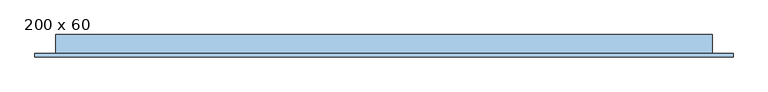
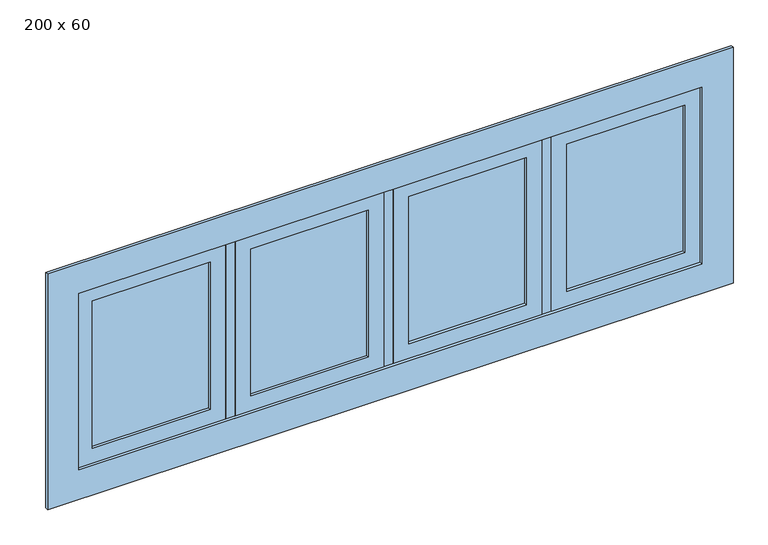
"""IFC4 building model written with IfcOpenShell, lengths in millimetres: window geometry, JANELA COM ESQUADRIA MAXIM-AR - 4 FOLHAS : 200 x 60."""

from ifc_helpers import new_model, si_unit, frame, origin, place, context, project, spatial, polyline, outline, extrude, source, transform, mapped, element, save


def window_200_x_60_8f1f4637(model_context):
    return source(origin(), model_context, "Body", "SweptSolid", [
        extrude(outline(polyline([(194.4035509, -60.3758395), (571.9035509, -60.3758395), (571.9035509, -66.3758395), (194.4035509, -66.3758395), (194.4035509, -60.3758395)])), frame((0.0, 0.0, 1650.0), z_axis=(0.0, 0.0, 1.0), x_axis=(1.0, 0.0, 0.0)), (0.0, 0.0, 1.0), 500.0),
        extrude(outline(polyline([(2200.0, 144.4035509), (1600.0, 144.4035509), (1600.0, 621.9035509), (2200.0, 621.9035509), (2200.0, 144.4035509)]), holes=[polyline([(2150.0, 194.4035509), (2150.0, 571.9035509), (1650.0, 571.9035509), (1650.0, 194.4035509), (2150.0, 194.4035509)])]), frame((0.0, -75.8758395, 0.0), z_axis=(0.0, 1.0, 0.0), x_axis=(0.0, 0.0, 1.0)), (0.0, 0.0, 1.0), 25.0),
        extrude(outline(polyline([(-313.0964491, -60.3758395), (64.4035509, -60.3758395), (64.4035509, -66.3758395), (-313.0964491, -66.3758395), (-313.0964491, -60.3758395)])), frame((0.0, 0.0, 1650.0), z_axis=(0.0, 0.0, 1.0), x_axis=(1.0, 0.0, 0.0)), (0.0, 0.0, 1.0), 500.0),
        extrude(outline(polyline([(2200.0, -363.0964491), (1600.0, -363.0964491), (1600.0, 114.4035509), (2200.0, 114.4035509), (2200.0, -363.0964491)]), holes=[polyline([(2150.0, -313.0964491), (2150.0, 64.4035509), (1650.0, 64.4035509), (1650.0, -313.0964491), (2150.0, -313.0964491)])]), frame((0.0, -75.8758395, 0.0), z_axis=(0.0, 1.0, 0.0), x_axis=(0.0, 0.0, 1.0)), (0.0, 0.0, 1.0), 25.0),
        extrude(outline(polyline([(701.9035509, -60.3758395), (1079.4035509, -60.3758395), (1079.4035509, -66.3758395), (701.9035509, -66.3758395), (701.9035509, -60.3758395)])), frame((0.0, 0.0, 1650.0), z_axis=(0.0, 0.0, 1.0), x_axis=(1.0, 0.0, 0.0)), (0.0, 0.0, 1.0), 500.0),
        extrude(outline(polyline([(2200.0, 651.9035509), (1600.0, 651.9035509), (1600.0, 1129.4035509), (2200.0, 1129.4035509), (2200.0, 651.9035509)]), holes=[polyline([(2150.0, 701.9035509), (2150.0, 1079.4035509), (1650.0, 1079.4035509), (1650.0, 701.9035509), (2150.0, 701.9035509)])]), frame((0.0, -75.8758395, 0.0), z_axis=(0.0, 1.0, 0.0), x_axis=(0.0, 0.0, 1.0)), (0.0, 0.0, 1.0), 25.0),
        extrude(outline(polyline([(-820.5964491, -60.3758395), (-443.0964491, -60.3758395), (-443.0964491, -66.3758395), (-820.5964491, -66.3758395), (-820.5964491, -60.3758395)])), frame((0.0, 0.0, 1650.0), z_axis=(0.0, 0.0, 1.0), x_axis=(1.0, 0.0, 0.0)), (0.0, 0.0, 1.0), 500.0),
        extrude(outline(polyline([(2200.0, -870.5964491), (1600.0, -870.5964491), (1600.0, -393.0964491), (2200.0, -393.0964491), (2200.0, -870.5964491)]), holes=[polyline([(2150.0, -820.5964491), (2150.0, -443.0964491), (1650.0, -443.0964491), (1650.0, -820.5964491), (2150.0, -820.5964491)])]), frame((0.0, -75.8758395, 0.0), z_axis=(0.0, 1.0, 0.0), x_axis=(0.0, 0.0, 1.0)), (0.0, 0.0, 1.0), 25.0),
        extrude(outline(polyline([(1500.0, -970.5964491), (1500.0, 1229.4035509), (2300.0, 1229.4035509), (2300.0, -970.5964491), (1500.0, -970.5964491)]), holes=[polyline([(2200.0, -870.5964491), (2200.0, 1129.4035509), (1600.0, 1129.4035509), (1600.0, -870.5964491), (2200.0, -870.5964491)])]), frame((0.0, -85.8758395, 0.0), z_axis=(0.0, 1.0, 0.0), x_axis=(0.0, 0.0, 1.0)), (0.0, 0.0, 1.0), 10.0),
        extrude(outline(polyline([(114.4035509, -75.8758395), (114.4035509, -15.8758395), (144.4035509, -15.8758395), (144.4035509, -75.8758395), (114.4035509, -75.8758395)])), frame((0.0, 0.0, 1600.0), z_axis=(0.0, 0.0, 1.0), x_axis=(1.0, 0.0, 0.0)), (0.0, 0.0, 1.0), 600.0),
        extrude(outline(polyline([(621.9035509, -75.8758395), (621.9035509, -15.8758395), (651.9035509, -15.8758395), (651.9035509, -75.8758395), (621.9035509, -75.8758395)])), frame((0.0, 0.0, 1600.0), z_axis=(0.0, 0.0, 1.0), x_axis=(1.0, 0.0, 0.0)), (0.0, 0.0, 1.0), 600.0),
        extrude(outline(polyline([(-393.0964491, -75.8758395), (-393.0964491, -15.8758395), (-363.0964491, -15.8758395), (-363.0964491, -75.8758395), (-393.0964491, -75.8758395)])), frame((0.0, 0.0, 1600.0), z_axis=(0.0, 0.0, 1.0), x_axis=(1.0, 0.0, 0.0)), (0.0, 0.0, 1.0), 600.0),
        extrude(outline(polyline([(-905.5964491, -15.8758395), (-870.5964491, -15.8758395), (-870.5964491, -75.8758395), (-905.5964491, -75.8758395), (-905.5964491, -15.8758395)])), frame((0.0, 0.0, 1600.0), z_axis=(0.0, 0.0, 1.0), x_axis=(1.0, 0.0, 0.0)), (0.0, 0.0, 1.0), 600.0),
        extrude(outline(polyline([(1129.4035509, -15.8758395), (1164.4035509, -15.8758395), (1164.4035509, -75.8758395), (1129.4035509, -75.8758395), (1129.4035509, -15.8758395)])), frame((0.0, 0.0, 1600.0), z_axis=(0.0, 0.0, 1.0), x_axis=(1.0, 0.0, 0.0)), (0.0, 0.0, 1.0), 600.0),
        extrude(outline(polyline([(-905.5964491, -15.8758395), (1164.4035509, -15.8758395), (1164.4035509, -75.8758395), (-905.5964491, -75.8758395), (-905.5964491, -15.8758395)])), frame((0.0, 0.0, 1565.0), z_axis=(0.0, 0.0, 1.0), x_axis=(1.0, 0.0, 0.0)), (0.0, 0.0, 1.0), 35.0),
        extrude(outline(polyline([(-905.5964491, -15.8758395), (1164.4035509, -15.8758395), (1164.4035509, -75.8758395), (-905.5964491, -75.8758395), (-905.5964491, -15.8758395)])), frame((0.0, 0.0, 2200.0), z_axis=(0.0, 0.0, 1.0), x_axis=(1.0, 0.0, 0.0)), (0.0, 0.0, 1.0), 35.0),
    ])


if __name__ == "__main__":
    model = new_model("IFC4")
    model_context = context("Model", 3, world=origin())
    ifc_project = project(units=[si_unit("LENGTHUNIT", "METRE", prefix="MILLI")], contexts=[model_context])
    site = spatial("IfcSite", under=ifc_project)
    building = spatial("IfcBuilding", under=site)
    placement = place(None, origin())
    window_200_x_60_shape = window_200_x_60_8f1f4637(model_context)
    element("IfcWindow", 1, ObjectType="JANELA COM ESQUADRIA MAXIM-AR - 4 FOLHAS : 200 x 60", at=placement, inside=building, context=model_context, shape_type="MappedRepresentation", body=[
        mapped(window_200_x_60_shape, transform((0.0, 0.0, 0.0), x_axis=(1.0, 0.0, 0.0), y_axis=(0.0, 1.0, 0.0), z_axis=(0.0, 0.0, 1.0))),
    ])
    save(model, "model.ifc")
